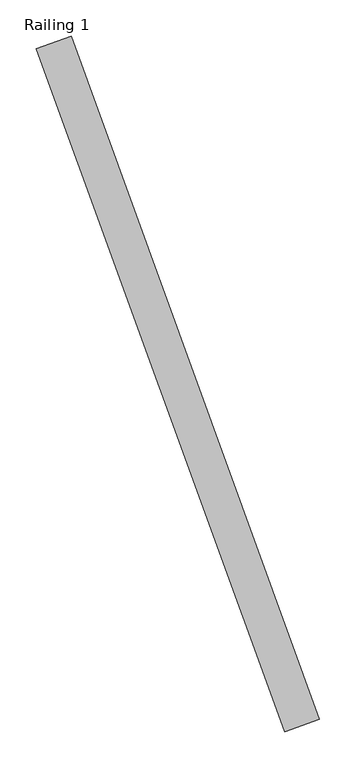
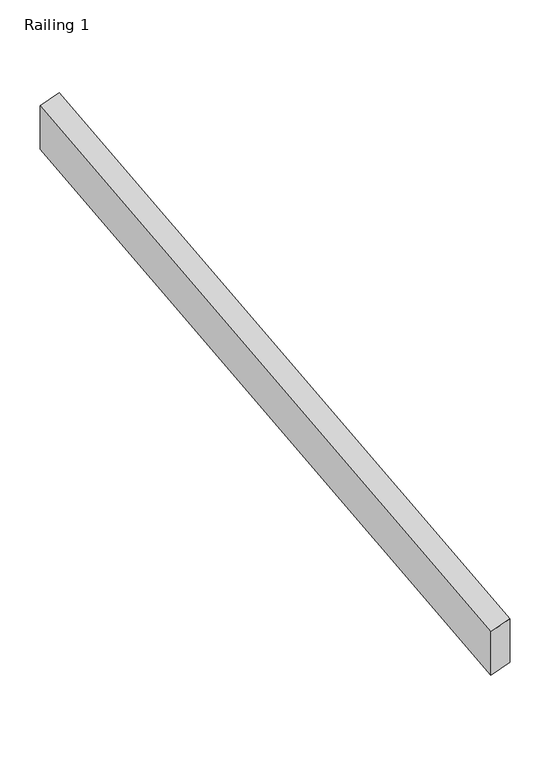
"""IFC4 building model written with IfcOpenShell, lengths in millimetres: railing geometry, Railing 1."""

from ifc_helpers import new_model, si_unit, frame, origin, place, context, project, spatial, polyline, outline, extrude, source, transform, mapped, element, save


def railing_1_47554e3c(model_context):
    return source(origin(), model_context, "Body", "SweptSolid", [
        extrude(outline(polyline([(-48.768, -76.2), (0.0, 0.0), (1187.2657664, 0.0), (1138.4977664, -76.2), (-48.768, -76.2)])), frame((24628.2868241, 9595.1981355, 4520.0), z_axis=(0.93969262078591, 0.34202014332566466, 0.0), x_axis=(-0.28807378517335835, 0.7914762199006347, 0.5390536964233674)), (0.0, 0.0, 1.0), 50.8),
    ])


if __name__ == "__main__":
    model = new_model("IFC4")
    model_context = context("Model", 3, world=origin())
    ifc_project = project(units=[si_unit("LENGTHUNIT", "METRE", prefix="MILLI")], contexts=[model_context])
    site = spatial("IfcSite", under=ifc_project)
    building = spatial("IfcBuilding", under=site)
    placement = place(None, origin())
    railing_1_shape = railing_1_47554e3c(model_context)
    element("IfcRailing", 1, ObjectType="Railing 1", at=placement, inside=building, context=model_context, shape_type="MappedRepresentation", body=[
        mapped(railing_1_shape, transform((0.0, 0.0, 0.0), x_axis=(1.0, 0.0, 0.0), y_axis=(0.0, 1.0, 0.0), z_axis=(0.0, 0.0, 1.0))),
    ])
    save(model, "model.ifc")
